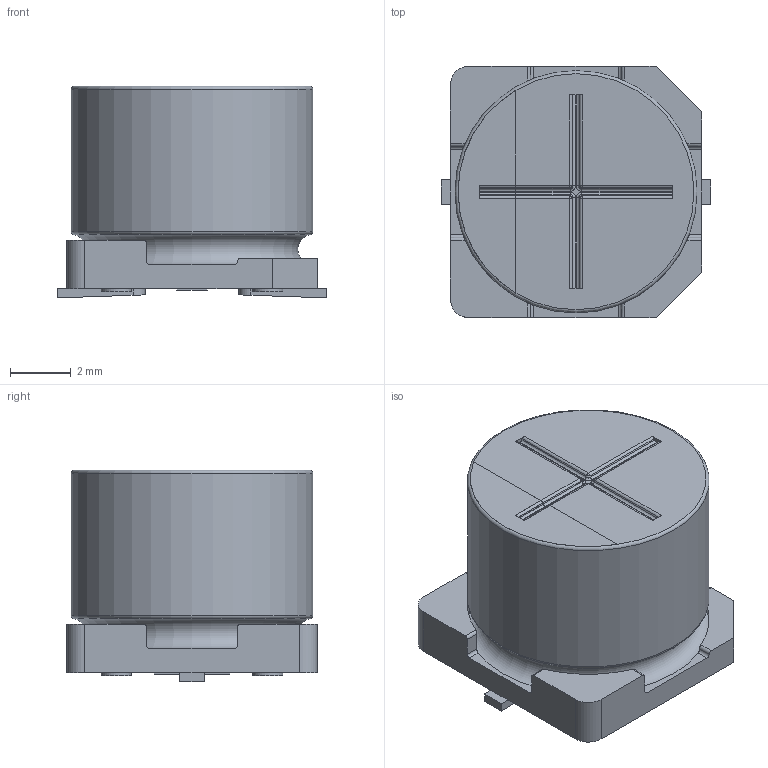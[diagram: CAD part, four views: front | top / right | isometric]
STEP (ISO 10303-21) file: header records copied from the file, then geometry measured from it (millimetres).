
FILE_DESCRIPTION(/* description */ (''),/* implementation_level */ '2;1');
FILE_NAME(/* name */ '8x7_Chip.stp',/* time_stamp */ '2017-09-04T17:35:34+09:00',/* author */ (''),/* organization */ (''),/* preprocessor_version */ 'ST-DEVELOPER v16',/* originating_system */ 'SIEMENS PLM Software NX 11.0',/* authorisation */ '');
FILE_SCHEMA (('AUTOMOTIVE_DESIGN { 1 0 10303 214 3 1 1 1 }'));
Length unit declared in the file: millimetre
Products named in the file (1): 8x7_Chip_0
Bounding box: 8.9 x 8.3 x 7 mm (x, y, z)
Volume: 348.7 mm3; surface area: 467.9 mm2
Topology: 5 solids, 5 shells, 132 faces, 330 edges, 210 vertices
Faces by surface type: plane 61, cylinder 60, sphere 4, bspline 4, torus 3
Full cylindrical faces by diameter (mm): 1 x4, 8 x1
Entity records: 4212 total; most frequent: CARTESIAN_POINT 919, DIRECTION 670, ORIENTED_EDGE 634, EDGE_CURVE 317, AXIS2_PLACEMENT_3D 240, VERTEX_POINT 209, LINE 190, VECTOR 190
